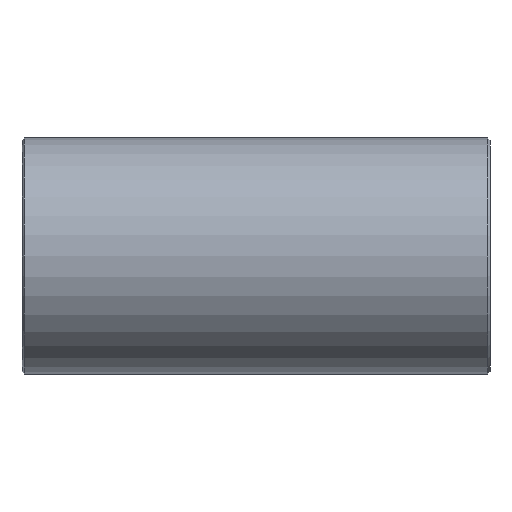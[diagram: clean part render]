
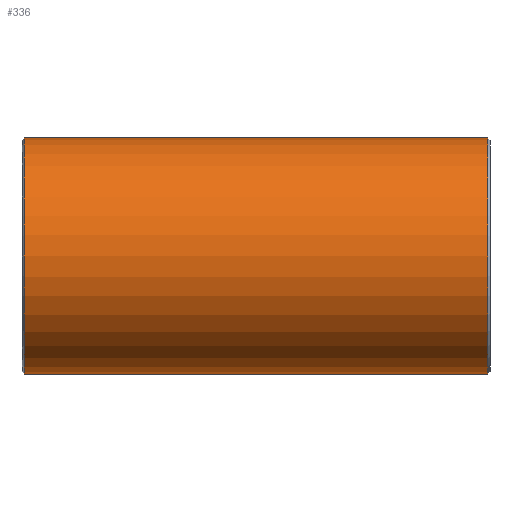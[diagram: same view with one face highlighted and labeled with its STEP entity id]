
A CAD part, front view. The second image highlights one B-rep face of the part: STEP entity #336.
In plain terms, the highlighted cylindrical face has radius 10.9 mm (diameter 21.8 mm), a full revolution.
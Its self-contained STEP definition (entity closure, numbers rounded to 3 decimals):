
#202=CARTESIAN_POINT('',(21.4,10.9,0.));
#203=VERTEX_POINT('',#202);
#204=CARTESIAN_POINT('',(21.4,0.0,0.0));
#205=DIRECTION('',(1.0,0.0,0.0));
#206=DIRECTION('',(0.0,-1.0,0.0));
#207=AXIS2_PLACEMENT_3D('',#204,#205,#206);
#208=CIRCLE('',#207,10.9);
#209=EDGE_CURVE('',#203,#203,#208,.T.);
#245=CARTESIAN_POINT('',(0.0,0.0,0.0));
#246=DIRECTION('',(1.0,0.0,0.0));
#247=DIRECTION('',(0.0,1.0,0.0));
#248=AXIS2_PLACEMENT_3D('',#245,#246,#247);
#249=CYLINDRICAL_SURFACE('',#248,10.9);
#250=CARTESIAN_POINT('',(-21.4,10.9,0.));
#251=VERTEX_POINT('',#250);
#252=CARTESIAN_POINT('',(-21.4,0.0,0.0));
#253=DIRECTION('',(-1.0,0.0,0.0));
#254=DIRECTION('',(0.0,-1.0,0.0));
#255=AXIS2_PLACEMENT_3D('',#252,#253,#254);
#256=CIRCLE('',#255,10.9);
#257=EDGE_CURVE('',#251,#251,#256,.T.);
#258=ORIENTED_EDGE('',*,*,#257,.F.);
#259=EDGE_LOOP('',(#258));
#260=FACE_OUTER_BOUND('',#259,.T.);
#261=CARTESIAN_POINT('',(0.,7.597,7.816));
#262=VERTEX_POINT('',#261);
#263=CARTESIAN_POINT('',(0.,7.597,7.816));
#264=CARTESIAN_POINT('',(0.,7.597,7.816));
#265=CARTESIAN_POINT('',(0.,7.597,7.816));
#266=CARTESIAN_POINT('',(0.,7.597,7.816));
#267=CARTESIAN_POINT('',(0.269,7.597,7.816));
#268=CARTESIAN_POINT('',(0.808,7.618,7.796));
#269=CARTESIAN_POINT('',(1.517,7.698,7.717));
#270=CARTESIAN_POINT('',(2.646,7.893,7.52));
#271=CARTESIAN_POINT('',(3.861,8.242,7.149));
#272=CARTESIAN_POINT('',(5.032,8.699,6.577));
#273=CARTESIAN_POINT('',(5.77,9.024,6.119));
#274=CARTESIAN_POINT('',(6.208,9.231,5.8));
#275=CARTESIAN_POINT('',(6.599,9.423,5.482));
#276=CARTESIAN_POINT('',(6.885,9.568,5.225));
#277=CARTESIAN_POINT('',(7.537,9.909,4.574));
#278=CARTESIAN_POINT('',(8.098,10.222,3.842));
#279=CARTESIAN_POINT('',(8.674,10.555,2.766));
#280=CARTESIAN_POINT('',(8.955,10.722,2.024));
#281=CARTESIAN_POINT('',(9.142,10.835,1.238));
#282=CARTESIAN_POINT('',(9.208,10.875,0.786));
#283=CARTESIAN_POINT('',(9.243,10.896,0.355));
#284=CARTESIAN_POINT('',(9.257,10.904,-0.051));
#285=CARTESIAN_POINT('',(9.222,10.883,-0.81));
#286=CARTESIAN_POINT('',(9.035,10.77,-1.815));
#287=CARTESIAN_POINT('',(8.64,10.535,-2.855));
#288=CARTESIAN_POINT('',(8.242,10.306,-3.565));
#289=CARTESIAN_POINT('',(7.759,10.034,-4.283));
#290=CARTESIAN_POINT('',(7.171,9.712,-4.98));
#291=CARTESIAN_POINT('',(6.248,9.244,-5.796));
#292=CARTESIAN_POINT('',(5.331,8.823,-6.413));
#293=CARTESIAN_POINT('',(4.595,8.528,-6.791));
#294=CARTESIAN_POINT('',(4.197,8.384,-6.966));
#295=CARTESIAN_POINT('',(3.49,8.136,-7.262));
#296=CARTESIAN_POINT('',(2.597,7.878,-7.536));
#297=CARTESIAN_POINT('',(1.206,7.648,-7.767));
#298=CARTESIAN_POINT('',(0.186,7.577,-7.836));
#299=CARTESIAN_POINT('',(-0.773,7.618,-7.797));
#300=CARTESIAN_POINT('',(-1.719,7.72,-7.696));
#301=CARTESIAN_POINT('',(-2.809,7.935,-7.478));
#302=CARTESIAN_POINT('',(-3.813,8.244,-7.136));
#303=CARTESIAN_POINT('',(-4.614,8.535,-6.783));
#304=CARTESIAN_POINT('',(-5.376,8.844,-6.382));
#305=CARTESIAN_POINT('',(-6.283,9.26,-5.773));
#306=CARTESIAN_POINT('',(-7.03,9.641,-5.103));
#307=CARTESIAN_POINT('',(-7.576,9.934,-4.497));
#308=CARTESIAN_POINT('',(-7.986,10.16,-3.964));
#309=CARTESIAN_POINT('',(-8.538,10.475,-3.086));
#310=CARTESIAN_POINT('',(-8.913,10.697,-2.184));
#311=CARTESIAN_POINT('',(-9.089,10.803,-1.464));
#312=CARTESIAN_POINT('',(-9.167,10.85,-1.067));
#313=CARTESIAN_POINT('',(-9.259,10.905,-0.411));
#314=CARTESIAN_POINT('',(-9.26,10.906,0.453));
#315=CARTESIAN_POINT('',(-9.139,10.833,1.257));
#316=CARTESIAN_POINT('',(-8.946,10.717,2.048));
#317=CARTESIAN_POINT('',(-8.606,10.515,2.945));
#318=CARTESIAN_POINT('',(-8.064,10.203,3.869));
#319=CARTESIAN_POINT('',(-7.564,9.927,4.511));
#320=CARTESIAN_POINT('',(-6.884,9.563,5.261));
#321=CARTESIAN_POINT('',(-6.05,9.143,5.96));
#322=CARTESIAN_POINT('',(-4.962,8.67,6.614));
#323=CARTESIAN_POINT('',(-3.795,8.224,7.168));
#324=CARTESIAN_POINT('',(-2.478,7.844,7.572));
#325=CARTESIAN_POINT('',(-1.081,7.635,7.78));
#326=CARTESIAN_POINT('',(-0.359,7.597,7.816));
#327=CARTESIAN_POINT('',(0.,7.597,7.816));
#328=B_SPLINE_CURVE_WITH_KNOTS('',3,(#263,#264,#265,#266,#267,#268,#269,#270,#271,#272,#273,#274,#275,#276,#277,#278,#279,#280,#281,#282,#283,#284,#285,#286,#287,#288,#289,#290,#291,#292,#293,#294,#295,#296,#297,#298,#299,#300,#301,#302,#303,#304,#305,#306,#307,#308,#309,#310,#311,#312,#313,#314,#315,#316,#317,#318,#319,#320,#321,#322,#323,#324,#325,#326,#327),.UNSPECIFIED.,.T.,.U.,(4,3,1,1,1,1,1,1,1,1,1,1,1,1,1,1,1,1,1,1,1,1,1,1,1,1,1,1,1,1,1,1,1,1,1,1,1,1,1,1,1,1,1,1,1,1,1,1,1,1,1,1,1,1,1,1,1,1,1,1,4),(-4.55,-4.55,-4.489,-4.428,-4.388,-4.225,-4.124,-4.063,-4.002,-3.981,-3.931,-3.9,-3.738,-3.684,-3.575,-3.528,-3.467,-3.453,-3.413,-3.358,-3.25,-3.142,-3.061,-3.033,-2.912,-2.817,-2.708,-2.627,-2.607,-2.6,-2.438,-2.383,-2.275,-2.207,-2.167,-2.058,-1.95,-1.909,-1.842,-1.733,-1.625,-1.578,-1.517,-1.445,-1.3,-1.259,-1.246,-1.192,-1.083,-1.016,-0.975,-0.867,-0.758,-0.691,-0.65,-0.488,-0.406,-0.325,-0.163,-0.081,0.),.UNSPECIFIED.);
#329=EDGE_CURVE('',#262,#262,#328,.T.);
#330=ORIENTED_EDGE('',*,*,#329,.F.);
#331=EDGE_LOOP('',(#330));
#332=FACE_BOUND('',#331,.T.);
#333=ORIENTED_EDGE('',*,*,#209,.F.);
#334=EDGE_LOOP('',(#333));
#335=FACE_BOUND('',#334,.T.);
#336=ADVANCED_FACE('',(#260,#332,#335),#249,.T.);
